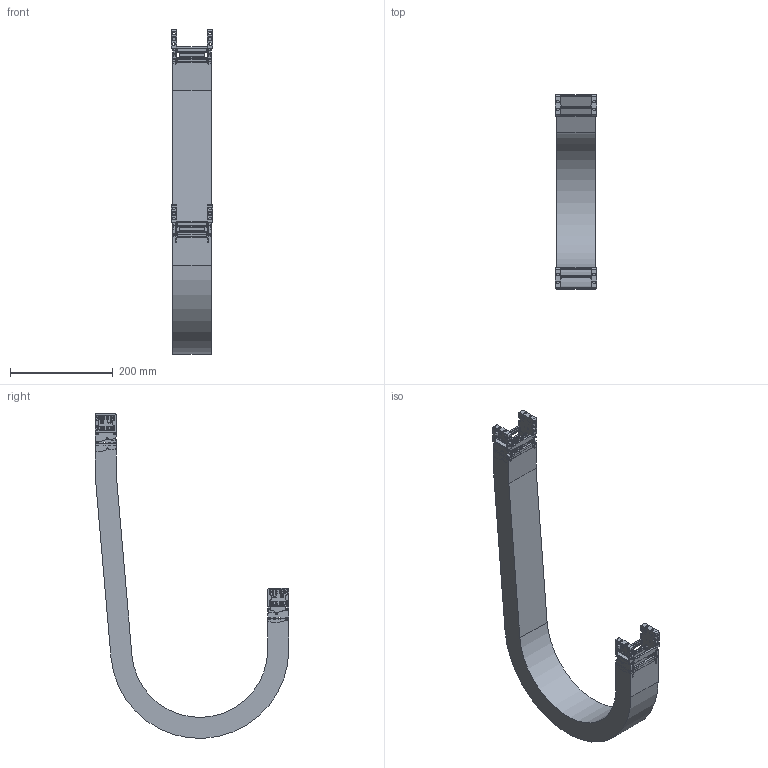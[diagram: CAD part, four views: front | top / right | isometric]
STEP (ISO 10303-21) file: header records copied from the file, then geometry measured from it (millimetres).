
FILE_DESCRIPTION((''),'2;1');
FILE_NAME('KST-30060-150_ASM','2017-12-06T',('KUNI004K'),(''),'PRO/ENGINEER BY PARAMETRIC TECHNOLOGY CORPORATION, 2015200','PRO/ENGINEER BY PARAMETRIC TECHNOLOGY CORPORATION, 2015200','');
FILE_SCHEMA(('AUTOMOTIVE_DESIGN { 1 0 10303 214 1 1 1 1 }'));
Length unit declared in the file: millimetre
Products named in the file (13): 30FBR; 30FBL; 25060C; 30FB_W060_ASM; 30150R; 30150L; 25060H; KST30060-150_1_ASM; KST30060_R150_BODY; 30MBR; 30MBL; 30MB_W060_ASM; KST-30060-150_ASM
Assembly tree (19 placements, depth 3):
  KST-30060-150_ASM
    30FB_W060_ASM
      30FBR
      30FBL
      25060C  x2
    KST30060-150_1_ASM  x2
      30150R
      30150L
      25060C
      25060H
    KST30060_R150_BODY
    30MB_W060_ASM
      30MBR
      30MBL
      25060C  x2
Bounding box: 80 x 377 x 632.14 mm (x, y, z)
Volume: 1274089.2 mm3; surface area: 576244.2 mm2
Topology: 21 solids, 21 shells, 2620 faces, 7214 edges, 4656 vertices
Faces by surface type: plane 1346, cylinder 930, bspline 216, torus 64, sphere 64
Entity records: 70688 total; most frequent: CARTESIAN_POINT 14910, ORIENTED_EDGE 7552, DIRECTION 6722, PRESENTATION_STYLE_ASSIGNMENT 5124, STYLED_ITEM 5124, CURVE_STYLE 3776, EDGE_CURVE 3776, VERTEX_POINT 2464
